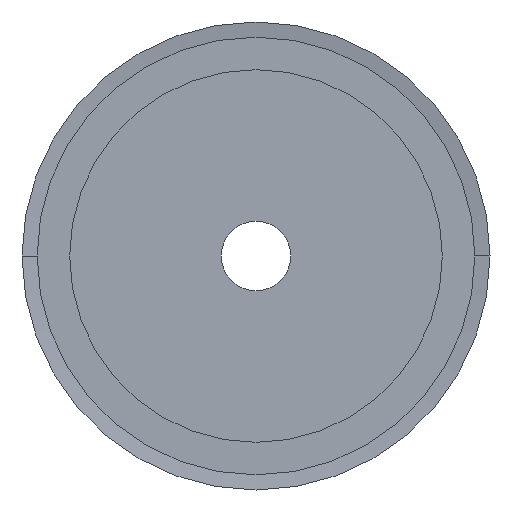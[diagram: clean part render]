
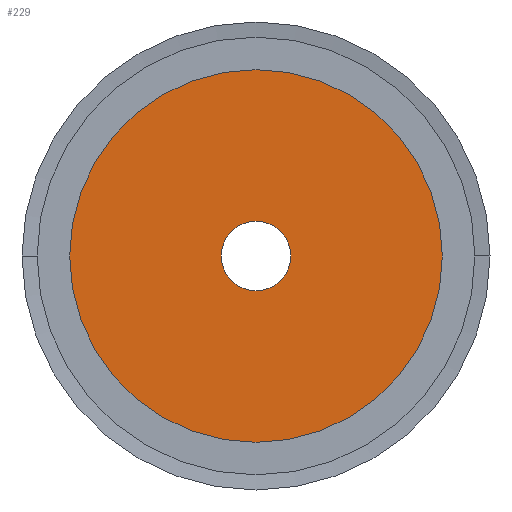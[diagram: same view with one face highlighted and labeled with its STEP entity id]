
A CAD part, left-side view. The second image highlights one B-rep face of the part: STEP entity #229.
In plain terms, the highlighted planar face has unit normal (-1, 0, 0).
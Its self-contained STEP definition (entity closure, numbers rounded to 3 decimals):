
#229 = ADVANCED_FACE( '', ( #545, #546 ), #547, .T. );
#545 = FACE_BOUND( '', #862, .T. );
#546 = FACE_OUTER_BOUND( '', #863, .T. );
#547 = PLANE( '', #864 );
#862 = EDGE_LOOP( '', ( #2195, #2196 ) );
#863 = EDGE_LOOP( '', ( #2197, #2198 ) );
#864 = AXIS2_PLACEMENT_3D( '', #2199, #2200, #2201 );
#2195 = ORIENTED_EDGE( '', *, *, #2632, .F. );
#2196 = ORIENTED_EDGE( '', *, *, #2217, .F. );
#2197 = ORIENTED_EDGE( '', *, *, #2205, .T. );
#2198 = ORIENTED_EDGE( '', *, *, #2637, .T. );
#2199 = CARTESIAN_POINT( '', ( 0., 12.75, 0. ) );
#2200 = DIRECTION( '', ( -1., 0., 0. ) );
#2201 = DIRECTION( '', ( 0., 1., 0. ) );
#2205 = EDGE_CURVE( '', #2639, #2643, #2645, .T. );
#2217 = EDGE_CURVE( '', #2667, #2663, #2669, .T. );
#2632 = EDGE_CURVE( '', #2663, #2667, #3356, .T. );
#2637 = EDGE_CURVE( '', #2643, #2639, #3361, .T. );
#2639 = VERTEX_POINT( '', #3363 );
#2643 = VERTEX_POINT( '', #3368 );
#2645 = CIRCLE( '', #3371, 21.5 );
#2663 = VERTEX_POINT( '', #3393 );
#2667 = VERTEX_POINT( '', #3398 );
#2669 = CIRCLE( '', #3401, 4. );
#3356 = CIRCLE( '', #4324, 4. );
#3361 = CIRCLE( '', #4329, 21.5 );
#3363 = CARTESIAN_POINT( '', ( 0., 21.5, 0. ) );
#3368 = CARTESIAN_POINT( '', ( 0., -21.5, 0. ) );
#3371 = AXIS2_PLACEMENT_3D( '', #4335, #4336, #4337 );
#3393 = CARTESIAN_POINT( '', ( 0., 4., 0. ) );
#3398 = CARTESIAN_POINT( '', ( 0., -4., 0. ) );
#3401 = AXIS2_PLACEMENT_3D( '', #4359, #4360, #4361 );
#4324 = AXIS2_PLACEMENT_3D( '', #5132, #5133, #5134 );
#4329 = AXIS2_PLACEMENT_3D( '', #5147, #5148, #5149 );
#4335 = CARTESIAN_POINT( '', ( 0., 0., 0. ) );
#4336 = DIRECTION( '', ( -1., 0., 0. ) );
#4337 = DIRECTION( '', ( 0., 1., 0. ) );
#4359 = CARTESIAN_POINT( '', ( 0., 0., 0. ) );
#4360 = DIRECTION( '', ( -1., 0., 0. ) );
#4361 = DIRECTION( '', ( 0., 1., 0. ) );
#5132 = CARTESIAN_POINT( '', ( 0., 0., 0. ) );
#5133 = DIRECTION( '', ( -1., 0., 0. ) );
#5134 = DIRECTION( '', ( 0., 1., 0. ) );
#5147 = CARTESIAN_POINT( '', ( 0., 0., 0. ) );
#5148 = DIRECTION( '', ( -1., 0., 0. ) );
#5149 = DIRECTION( '', ( 0., 1., 0. ) );
